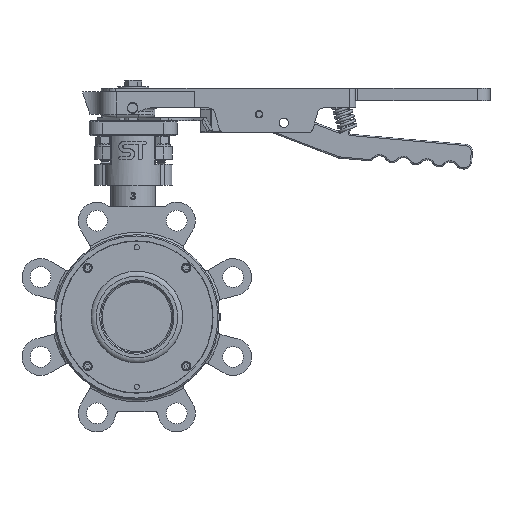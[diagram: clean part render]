
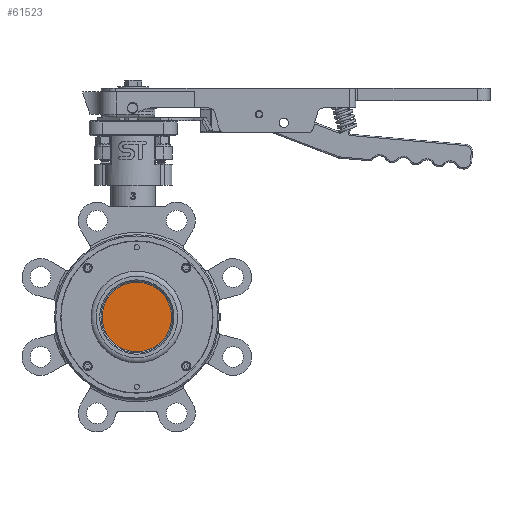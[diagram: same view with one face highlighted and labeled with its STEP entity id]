
A CAD part, front view. The second image highlights one B-rep face of the part: STEP entity #61523.
In plain terms, the highlighted planar face has unit normal (0, -1, 0).
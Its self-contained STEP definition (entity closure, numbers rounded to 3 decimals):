
#61523 = ADVANCED_FACE('',(#61524),#61537,.F.);
#61524 = FACE_BOUND('',#61525,.T.);
#61525 = EDGE_LOOP('',(#61526));
#61526 = ORIENTED_EDGE('',*,*,#61527,.F.);
#61527 = EDGE_CURVE('',#61528,#61528,#61530,.T.);
#61528 = VERTEX_POINT('',#61529);
#61529 = CARTESIAN_POINT('',(272.196,-9.768,177.519)
  );
#61530 = SURFACE_CURVE('',#61531,(#61536,#61548),.PCURVE_S1.);
#61531 = CIRCLE('',#61532,1.103);
#61532 = AXIS2_PLACEMENT_3D('',#61533,#61534,#61535);
#61533 = CARTESIAN_POINT('',(271.093,-9.768,177.519)
  );
#61534 = DIRECTION('',(0.,1.,0.));
#61535 = DIRECTION('',(1.,0.,0.));
#61536 = PCURVE('',#61537,#61542);
#61537 = PLANE('',#61538);
#61538 = AXIS2_PLACEMENT_3D('',#61539,#61540,#61541);
#61539 = CARTESIAN_POINT('',(271.093,-9.768,177.519)
  );
#61540 = DIRECTION('',(0.,1.,0.));
#61541 = DIRECTION('',(1.,0.,0.));
#61542 = DEFINITIONAL_REPRESENTATION('',(#61543),#61547);
#61543 = CIRCLE('',#61544,1.103);
#61544 = AXIS2_PLACEMENT_2D('',#61545,#61546);
#61545 = CARTESIAN_POINT('',(0.,0.));
#61546 = DIRECTION('',(1.,0.));
#61547 = ( GEOMETRIC_REPRESENTATION_CONTEXT(2) 
PARAMETRIC_REPRESENTATION_CONTEXT() REPRESENTATION_CONTEXT('2D SPACE',''
  ) );
#61548 = PCURVE('',#61549,#61554);
#61549 = TOROIDAL_SURFACE('',#61550,1.103,0.039);
#61550 = AXIS2_PLACEMENT_3D('',#61551,#61552,#61553);
#61551 = CARTESIAN_POINT('',(271.093,-9.807,177.519)
  );
#61552 = DIRECTION('',(0.,1.,0.));
#61553 = DIRECTION('',(1.,0.,0.));
#61554 = DEFINITIONAL_REPRESENTATION('',(#61555),#61559);
#61555 = LINE('',#61556,#61557);
#61556 = CARTESIAN_POINT('',(0.,7.854));
#61557 = VECTOR('',#61558,1.);
#61558 = DIRECTION('',(1.,0.));
#61559 = ( GEOMETRIC_REPRESENTATION_CONTEXT(2) 
PARAMETRIC_REPRESENTATION_CONTEXT() REPRESENTATION_CONTEXT('2D SPACE',''
  ) );
